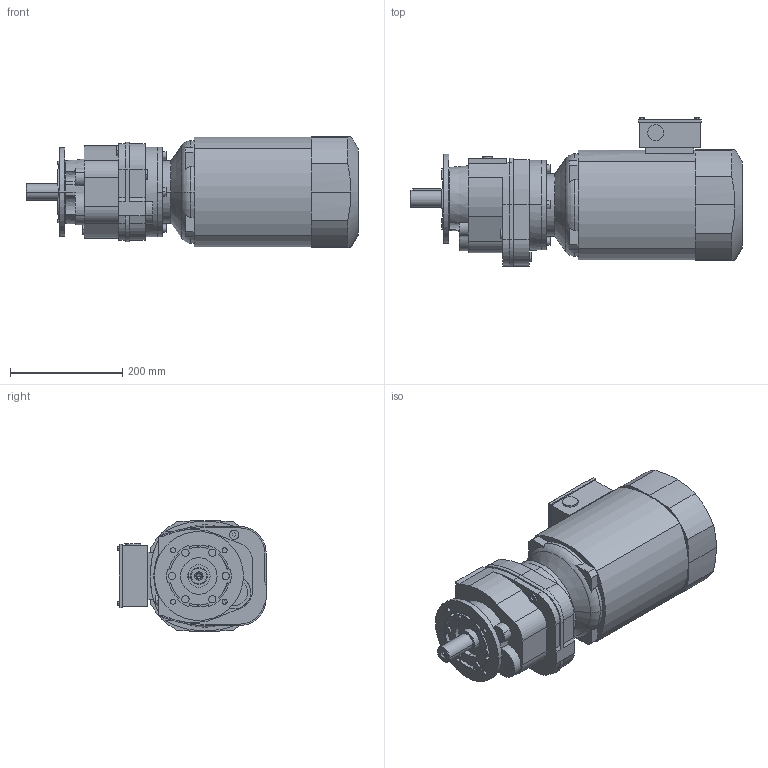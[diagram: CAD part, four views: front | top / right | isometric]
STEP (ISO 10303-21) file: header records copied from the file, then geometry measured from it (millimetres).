
FILE_DESCRIPTION(('STEP AP214'),'1');
FILE_NAME('STEP-File.stp','2018-01-01T00:00:00',(' '),('KEB'),' ','KEB-DRIVE',' ');
FILE_SCHEMA(('AUTOMOTIVE_DESIGN { 1 0 10303 214 1 1 1 1 }'));
Length unit declared in the file: millimetre
Products named in the file (9): g3b; w3_we_30x60; c3_160; cp3; dm112l_kkn; kk08; PLUG_M25; ndm112; G32C DM100LF4§CAD13
Assembly tree (8 placements, depth 2):
  G32C DM100LF4§CAD13
    g3b
    w3_we_30x60
    c3_160
    cp3
    dm112l_kkn
    kk08
    PLUG_M25
    ndm112
Bounding box: 592.5 x 264.5 x 197.8 mm (x, y, z)
Volume: 15359749.3 mm3; surface area: 684167.2 mm2
Topology: 8 solids, 8 shells, 552 faces, 1645 edges, 1317 vertices
Faces by surface type: plane 362, cylinder 128, cone 58, torus 4
Entity records: 20486 total; most frequent: CARTESIAN_POINT 5947, ORIENTED_EDGE 3286, DIRECTION 2275, EDGE_CURVE 1643, VERTEX_POINT 1317, VECTOR 1217, LINE 1217, EDGE_LOOP 772
